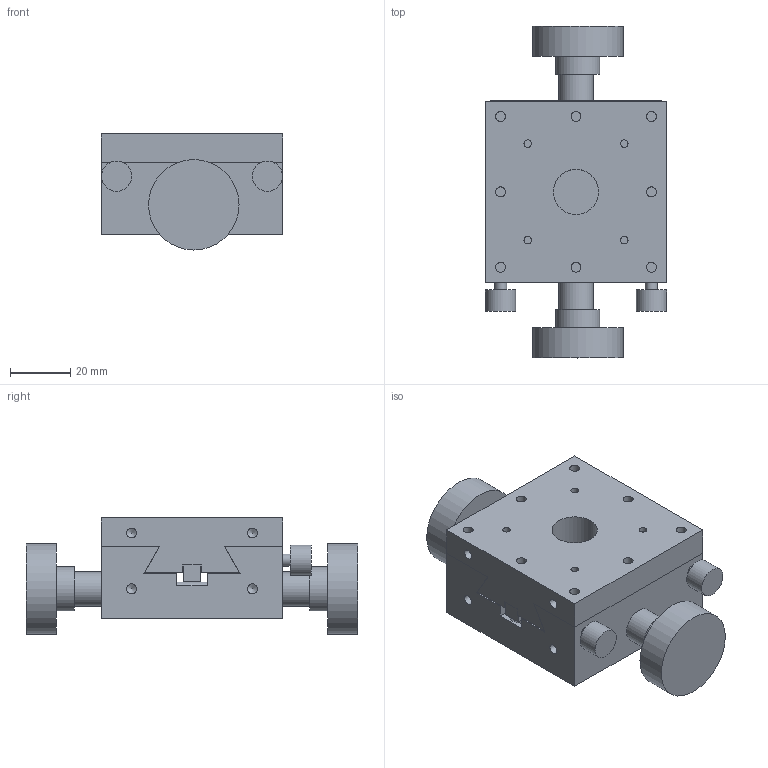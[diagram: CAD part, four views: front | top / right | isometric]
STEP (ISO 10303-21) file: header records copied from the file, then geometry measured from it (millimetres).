
FILE_DESCRIPTION( ( 'STEP AP214' ), '1' );
FILE_NAME( 'C:/Project/B06-11M.stp', '2007-05-08T10:31:33', ( ' ' ), ( ' ' ), 'XStep 1.0', ' ', ' ' );
FILE_SCHEMA( ( 'automotive_design' ) );
Length unit declared in the file: millimetre
Products named in the file (3): 1; 2; 3
Bounding box: 60 x 110 x 38.5 mm (x, y, z)
Volume: 131869.3 mm3; surface area: 40152.2 mm2
Topology: 3 solids, 3 shells, 121 faces, 306 edges, 208 vertices
Faces by surface type: plane 73, cylinder 40, cone 8
Full cylindrical faces by diameter (mm): 2.5 x4, 3.3 x16, 4 x2, 4.5 x3, 7 x3, 8 x2, 10 x2, 11.5 x2, 14.6 x2, 15 x1, 30 x2
Entity records: 4272 total; most frequent: DIRECTION 560, CARTESIAN_POINT 554, ORIENTED_EDGE 460, EDGE_CURVE 230, EDGE_LOOP 214, AXIS2_PLACEMENT_3D 210, VERTEX_POINT 188, FACE_OUTER_BOUND 160
